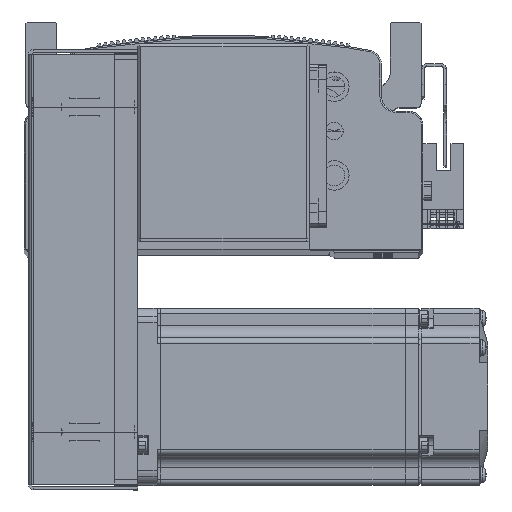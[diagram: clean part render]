
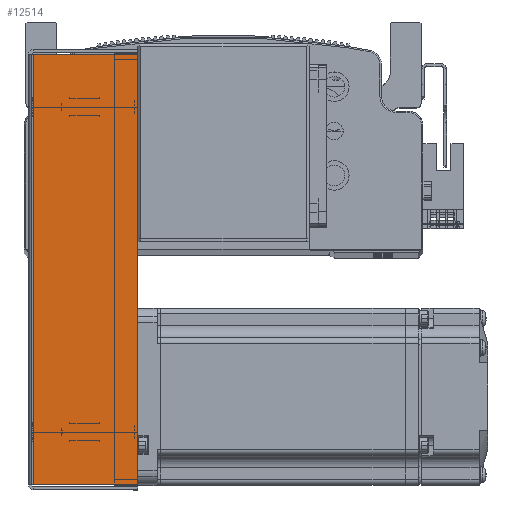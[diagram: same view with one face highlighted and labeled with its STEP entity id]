
A CAD part, top view. The second image highlights one B-rep face of the part: STEP entity #12514.
In plain terms, the highlighted planar face has unit normal (0, 0, 1) as drawn and (0, 0, -1) by its records, which use the part's own axes.
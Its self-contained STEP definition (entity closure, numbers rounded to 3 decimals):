
#7083 = ORIENTED_EDGE ( 'NONE', *, *, #84766, .T. ) ;
#7105 = ORIENTED_EDGE ( 'NONE', *, *, #84762, .T. ) ;
#7119 = ORIENTED_EDGE ( 'NONE', *, *, #84780, .F. ) ;
#7149 = ORIENTED_EDGE ( 'NONE', *, *, #84727, .F. ) ;
#12514 = ADVANCED_FACE ( 'NONE', ( #80026 ), #43444, .F. ) ;
#17680 = VECTOR ( 'NONE', #31714, 1000. ) ;
#17727 = LINE ( 'NONE', #31732, #17680 ) ;
#17761 = LINE ( 'NONE', #31842, #17777 ) ;
#17770 = VECTOR ( 'NONE', #31800, 1000. ) ;
#17777 = VECTOR ( 'NONE', #31857, 1000. ) ;
#17779 = LINE ( 'NONE', #31797, #17770 ) ;
#17809 = VECTOR ( 'NONE', #31855, 1000. ) ;
#17823 = LINE ( 'NONE', #31882, #17809 ) ;
#20732 = EDGE_LOOP ( 'NONE', ( #7149, #7083, #7105, #7119 ) ) ;
#28655 = CARTESIAN_POINT ( 'NONE',  ( -72.793, 0.737, -34.5 ) ) ;
#28700 = CARTESIAN_POINT ( 'NONE',  ( 72.793, 0.737, -34.5 ) ) ;
#28714 = CARTESIAN_POINT ( 'NONE',  ( -72.793, 36., -34.5 ) ) ;
#31714 = DIRECTION ( 'NONE',  ( 1., 0., 0. ) ) ;
#31732 = CARTESIAN_POINT ( 'NONE',  ( 74.5, 0.737, -34.5 ) ) ;
#31797 = CARTESIAN_POINT ( 'NONE',  ( 0., 36., -34.5 ) ) ;
#31800 = DIRECTION ( 'NONE',  ( 1., 0., 0. ) ) ;
#31842 = CARTESIAN_POINT ( 'NONE',  ( -72.793, 0., -34.5 ) ) ;
#31855 = DIRECTION ( 'NONE',  ( 0., 1., 0. ) ) ;
#31857 = DIRECTION ( 'NONE',  ( 0., 1., 0. ) ) ;
#31882 = CARTESIAN_POINT ( 'NONE',  ( 72.793, 0., -34.5 ) ) ;
#43444 = PLANE ( 'NONE',  #47350 ) ;
#43487 = CARTESIAN_POINT ( 'NONE',  ( 0., 0., -34.5 ) ) ;
#43494 = DIRECTION ( 'NONE',  ( 0., 0., 1. ) ) ;
#43528 = DIRECTION ( 'NONE',  ( 0., -1., 0. ) ) ;
#47350 = AXIS2_PLACEMENT_3D ( 'NONE', #43487, #43494, #43528 ) ;
#54287 = CARTESIAN_POINT ( 'NONE',  ( 72.793, 36., -34.5 ) ) ;
#68638 = VERTEX_POINT ( 'NONE', #54287 ) ;
#68725 = VERTEX_POINT ( 'NONE', #28655 ) ;
#68762 = VERTEX_POINT ( 'NONE', #28700 ) ;
#68789 = VERTEX_POINT ( 'NONE', #28714 ) ;
#80026 = FACE_OUTER_BOUND ( 'NONE', #20732, .T. ) ;
#84727 = EDGE_CURVE ( 'NONE', #68725, #68762, #17727, .T. ) ;
#84762 = EDGE_CURVE ( 'NONE', #68789, #68638, #17779, .T. ) ;
#84766 = EDGE_CURVE ( 'NONE', #68725, #68789, #17761, .T. ) ;
#84780 = EDGE_CURVE ( 'NONE', #68762, #68638, #17823, .T. ) ;
